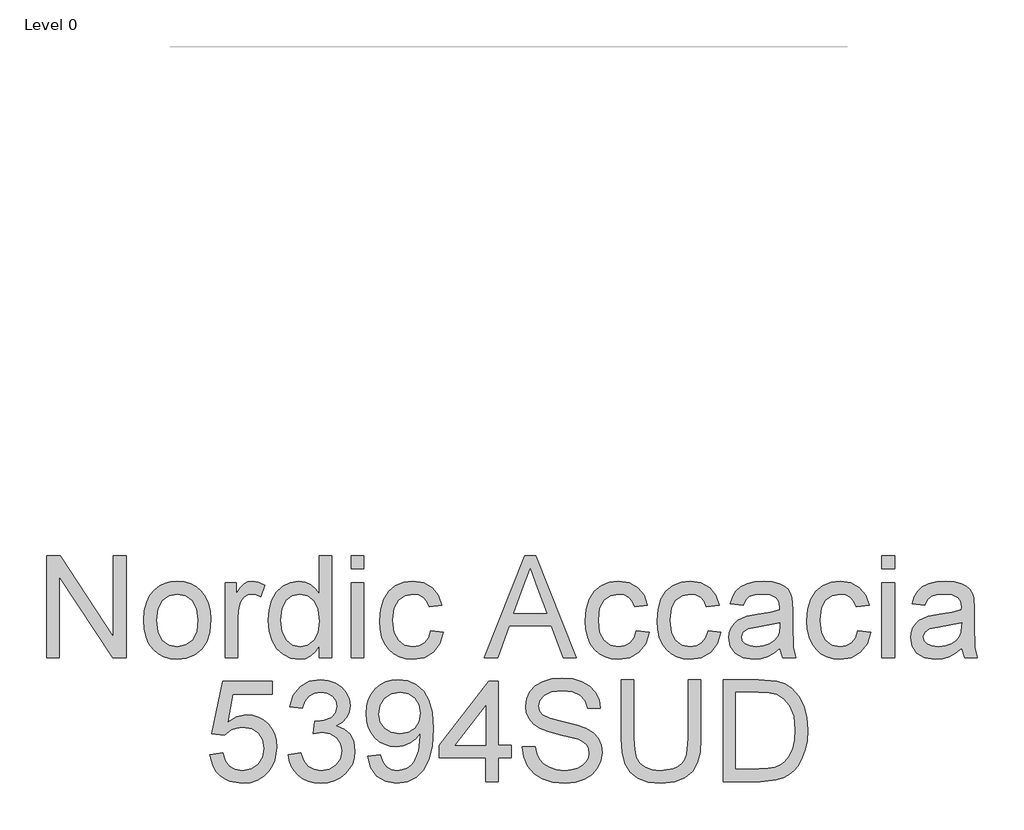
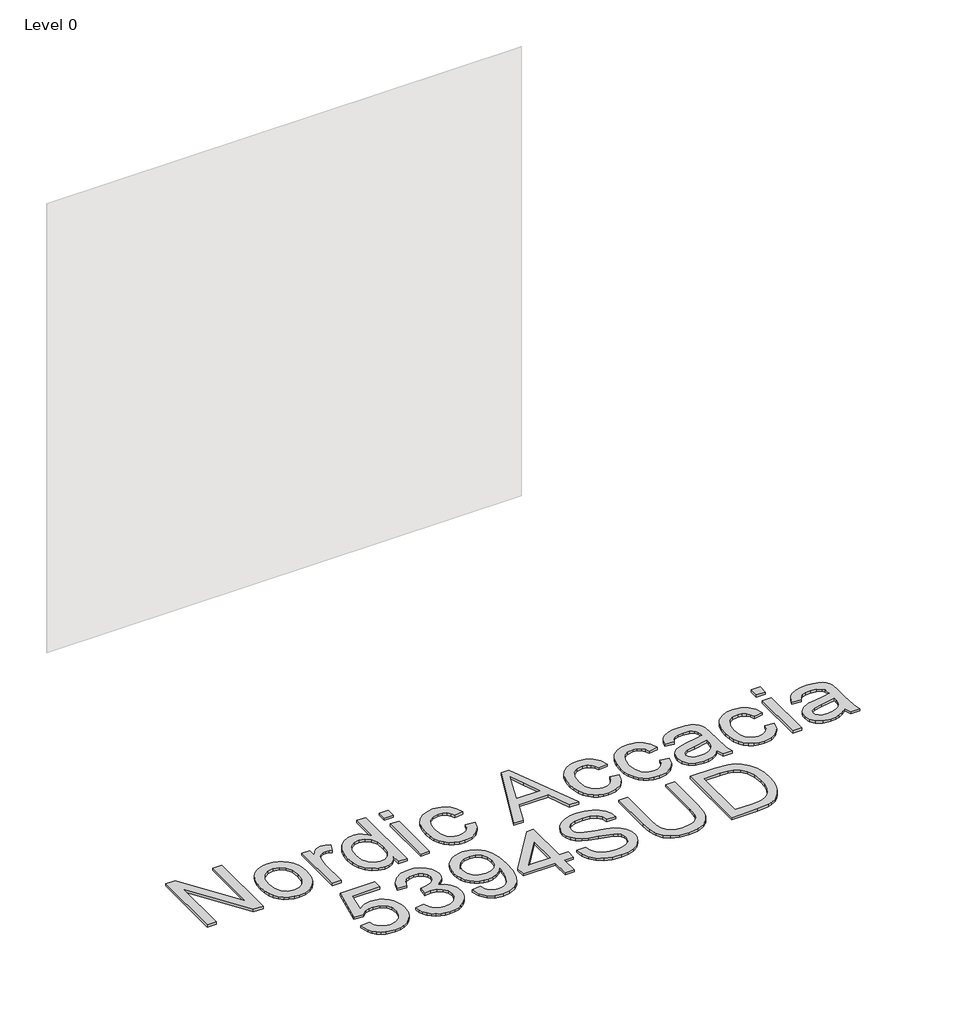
# One storey, part 23 of 43: 1 proxy.
"""IFC4 building model written with IfcOpenShell, lengths in millimetres."""

from ifc_helpers import new_model, si_unit, origin, origin_with_axes, place, context, project, spatial, polyline, outline, extrude, element, save

model = new_model("IFC4")

# Units and contexts
model_context = context("Model", 3, world=origin())
ifc_project = project(units=[si_unit("LENGTHUNIT", "METRE", prefix="MILLI")], contexts=[model_context])

# Site, building, storey
site = spatial("IfcSite", under=ifc_project)
building = spatial("IfcBuilding", under=site)
storey = spatial("IfcBuildingStorey", under=building, Name="Level 0", Elevation=0.0)

# Proxy
placement = place(None, origin())
element("IfcBuildingElementProxy", 1, Name="300mm Arial", ObjectType="300mm Arial", at=placement, inside=storey, context=model_context, shape_type="SweptSolid", body=[
    extrude(outline(polyline([(-816.2360224, -16999.860494), (-816.2360224, -16698.4915635), (-775.9161557, -16698.4915635), (-618.4626618, -16937.2469784), (-618.4626618, -16698.4915635), (-580.7915455, -16698.4915635), (-580.7915455, -16999.860494), (-621.1114122, -16999.860494), (-778.5649061, -16761.0315027), (-778.5649061, -16999.860494), (-816.2360224, -16999.860494)])), origin_with_axes(), (0.0, 0.0, 1.0), 10.0),
    extrude(outline(polyline([(-528.9937606, -16889.2015898), (-526.956614, -16860.5389839), (-520.8451744, -16835.8403064), (-510.6594416, -16815.1055575), (-496.3994158, -16798.334737), (-482.0428209, -16787.6155754), (-466.196304, -16779.9590314), (-448.859865, -16775.3651049), (-430.0335039, -16773.8337961), (-409.2504704, -16775.698498), (-390.4585982, -16781.2926036), (-373.6578874, -16790.6161129), (-358.8483378, -16803.669026), (-346.761115, -16820.0098843), (-338.1273844, -16839.1972296), (-332.9471461, -16861.2310619), (-331.2204, -16886.1113811), (-334.2738205, -16924.1687735), (-343.4340822, -16953.1394806), (-358.4344706, -16974.8353213), (-379.0082711, -16991.0681143), (-403.4448327, -17001.1940662), (-430.0335039, -17004.5693835), (-451.12004, -17002.7115794), (-470.0866561, -16997.1381672), (-486.9333522, -16987.8491468), (-501.6601283, -16974.8445183), (-513.6185924, -16958.3450108), (-522.1603525, -16938.5713536), (-527.2854086, -16915.5235466), (-528.9937606, -16889.2015898)]), holes=[polyline([(-491.3226443, -16889.1280134), (-486.9632426, -16923.2214773), (-473.8850377, -16947.5108861), (-454.203351, -16962.0514219), (-430.0335039, -16966.8982672), (-405.9740214, -16962.0238308), (-386.3291228, -16947.4005215), (-373.2509179, -16922.789216), (-368.8915163, -16887.950791), (-373.2785091, -16854.8506085), (-386.4394874, -16830.8922936), (-406.1119771, -16816.3517577), (-430.0335039, -16811.5049125), (-454.203351, -16816.3333636), (-473.8850377, -16830.8187172), (-486.9632426, -16855.0529436), (-491.3226443, -16889.1280134)])]), origin_with_axes(), (0.0, 0.0, 1.0), 10.0),
    extrude(outline(polyline([(-288.8403941, -16999.860494), (-288.8403941, -16778.5426857), (-255.8781674, -16778.5426857), (-255.8781674, -16811.2841833), (-243.7012733, -16792.3014723), (-232.4808725, -16781.1178596), (-221.2236834, -16775.654812), (-208.9364248, -16773.8337961), (-190.174443, -16776.7400639), (-171.1181557, -16785.4588672), (-183.6997199, -16819.2304343), (-196.9434717, -16813.4362929), (-210.1872235, -16811.5049125), (-221.4352156, -16813.3627165), (-231.4875911, -16818.9361288), (-239.6085861, -16827.8020848), (-245.0624367, -16839.5375205), (-249.6425675, -16860.5803706), (-251.1692778, -16883.5362071), (-251.1692778, -16999.860494), (-288.8403941, -16999.860494)])), origin_with_axes(), (0.0, 0.0, 1.0), 10.0),
    extrude(outline(polyline([(-11.0159114, -16999.860494), (-11.0159114, -16964.3230932), (-22.286896, -16981.9308452), (-35.9399165, -16994.507811), (-51.974973, -17002.0539904), (-70.3920654, -17004.5693835), (-94.7458535, -17000.9273518), (-117.0395024, -16990.0012565), (-135.9118487, -16972.5544529), (-150.0017291, -16949.350296), (-158.7757147, -16921.3268851), (-161.7003766, -16889.422319), (-159.005641, -16857.9132261), (-150.9214341, -16829.4575538), (-137.4569531, -16805.6739828), (-118.6213949, -16788.181194), (-95.8403024, -16777.4206456), (-70.5392182, -16773.8337961), (-52.1083302, -16776.3997731), (-35.8111578, -16784.0977038), (-21.9971889, -16795.8975188), (-11.0159114, -16810.7691485), (-11.0159114, -16698.4915635), (26.6552049, -16698.4915635), (26.6552049, -16999.860494), (-11.0159114, -16999.860494)]), holes=[polyline([(-124.0292603, -16889.2751662), (-119.7802232, -16923.350236), (-107.0331121, -16947.5844625), (-88.5102536, -16962.069816), (-66.9339746, -16966.8982672), (-45.3668927, -16962.2905452), (-27.3130837, -16948.4673793), (-15.0902045, -16925.1712519), (-11.0159114, -16892.1446458), (-15.1637809, -16856.037028), (-27.6073893, -16831.0026582), (-46.1210508, -16816.3793489), (-68.479079, -16811.5049125), (-90.2760872, -16816.1862108), (-108.1367581, -16830.230106), (-120.0561347, -16854.3539678), (-124.0292603, -16889.2751662)])]), origin_with_axes(), (0.0, 0.0, 1.0), 10.0),
    extrude(outline(polyline([(83.1618794, -16736.1626798), (83.1618794, -16698.4915635), (120.8329957, -16698.4915635), (120.8329957, -16736.1626798), (83.1618794, -16736.1626798)])), origin_with_axes(), (0.0, 0.0, 1.0), 10.0),
    extrude(outline(polyline([(83.1618794, -16999.860494), (83.1618794, -16778.5426857), (120.8329957, -16778.5426857), (120.8329957, -16999.860494), (83.1618794, -16999.860494)])), origin_with_axes(), (0.0, 0.0, 1.0), 10.0),
    extrude(outline(polyline([(318.6063563, -16919.8093718), (356.2774726, -16924.5182614), (345.7744417, -16958.0231141), (326.0375726, -16983.3425924), (298.9246696, -16999.2626857), (266.2935366, -17004.5693835), (245.1656138, -17002.7184772), (226.2219903, -16997.1657584), (209.4626661, -16987.9112269), (194.8876413, -16974.9548829), (183.0901256, -16958.5404481), (174.6633287, -16938.9116444), (169.6072505, -16916.0684718), (167.9218911, -16890.0109302), (170.8005677, -16856.4876834), (179.4365975, -16827.4342028), (193.9679364, -16803.9725286), (214.5325399, -16787.2247008), (239.1346483, -16777.1815223), (265.7785018, -16773.8337961), (297.6094914, -16778.4323211), (323.0577285, -16792.2278959), (341.3138725, -16814.4847566), (351.5685831, -16844.4671392), (313.8974668, -16849.1760288), (307.0640587, -16832.7409006), (296.423072, -16820.9594797), (282.5631178, -16813.8685543), (266.0728074, -16811.5049125), (241.7282164, -16816.1586197), (222.4052146, -16830.1197414), (209.7960592, -16854.1424357), (205.5930074, -16888.9808606), (209.7040887, -16924.2883351), (222.0373326, -16948.3938029), (241.0108465, -16962.2721511), (265.0427378, -16966.8982672), (284.5496806, -16964.0103936), (300.5433504, -16955.3467726), (312.1776185, -16940.6866751), (318.6063563, -16919.8093718)])), origin_with_axes(), (0.0, 0.0, 1.0), 10.0),
    extrude(outline(polyline([(476.574885, -16999.860494), (596.8722975, -16698.4915635), (628.9516074, -16698.4915635), (749.2490199, -16999.860494), (709.444188, -16999.860494), (674.9368568, -16905.6827032), (550.8134717, -16905.6827032), (516.3797169, -16999.860494), (476.574885, -16999.860494)]), holes=[polyline([(564.6458347, -16868.0115869), (661.1780702, -16868.0115869), (634.028379, -16793.9201531), (612.9119525, -16736.1626798), (594.1499707, -16787.44543), (564.6458347, -16868.0115869)])]), origin_with_axes(), (0.0, 0.0, 1.0), 10.0),
    extrude(outline(polyline([(926.0531068, -16919.8093718), (963.7242231, -16924.5182614), (953.2211921, -16958.0231141), (933.4843231, -16983.3425924), (906.37142, -16999.2626857), (873.740287, -17004.5693835), (852.6123642, -17002.7184772), (833.6687407, -16997.1657584), (816.9094166, -16987.9112269), (802.3343918, -16974.9548829), (790.536876, -16958.5404481), (782.1100791, -16938.9116444), (777.0540009, -16916.0684718), (775.3686415, -16890.0109302), (778.2473181, -16856.4876834), (786.883348, -16827.4342028), (801.4146868, -16803.9725286), (821.9792903, -16787.2247008), (846.5813987, -16777.1815223), (873.2252522, -16773.8337961), (905.0562419, -16778.4323211), (930.5044789, -16792.2278959), (948.7606229, -16814.4847566), (959.0153335, -16844.4671392), (921.3442172, -16849.1760288), (914.5108092, -16832.7409006), (903.8698224, -16820.9594797), (890.0098683, -16813.8685543), (873.5195578, -16811.5049125), (849.1749668, -16816.1586197), (829.851965, -16830.1197414), (817.2428096, -16854.1424357), (813.0397578, -16888.9808606), (817.1508391, -16924.2883351), (829.484083, -16948.3938029), (848.4575969, -16962.2721511), (872.4894883, -16966.8982672), (891.9964311, -16964.0103936), (907.9901008, -16955.3467726), (919.6243689, -16940.6866751), (926.0531068, -16919.8093718)])), origin_with_axes(), (0.0, 0.0, 1.0), 10.0),
    extrude(outline(polyline([(1137.953136, -16919.8093718), (1175.6242523, -16924.5182614), (1165.1212213, -16958.0231141), (1145.3843523, -16983.3425924), (1118.2714492, -16999.2626857), (1085.6403163, -17004.5693835), (1064.5123934, -17002.7184772), (1045.5687699, -16997.1657584), (1028.8094458, -16987.9112269), (1014.234421, -16974.9548829), (1002.4369053, -16958.5404481), (994.0101083, -16938.9116444), (988.9540301, -16916.0684718), (987.2686708, -16890.0109302), (990.1473474, -16856.4876834), (998.7833772, -16827.4342028), (1013.314716, -16803.9725286), (1033.8793195, -16787.2247008), (1058.481428, -16777.1815223), (1085.1252815, -16773.8337961), (1116.9562711, -16778.4323211), (1142.4045081, -16792.2278959), (1160.6606521, -16814.4847566), (1170.9153627, -16844.4671392), (1133.2442464, -16849.1760288), (1126.4108384, -16832.7409006), (1115.7698517, -16820.9594797), (1101.9098975, -16813.8685543), (1085.4195871, -16811.5049125), (1061.074996, -16816.1586197), (1041.7519942, -16830.1197414), (1029.1428389, -16854.1424357), (1024.9397871, -16888.9808606), (1029.0508684, -16924.2883351), (1041.3841122, -16948.3938029), (1060.3576261, -16962.2721511), (1084.3895175, -16966.8982672), (1103.8964603, -16964.0103936), (1119.89013, -16955.3467726), (1131.5243981, -16940.6866751), (1137.953136, -16919.8093718)])), origin_with_axes(), (0.0, 0.0, 1.0), 10.0),
    extrude(outline(polyline([(1349.8531652, -16971.6071568), (1331.8545386, -16987.0398064), (1313.3224831, -16997.1381672), (1293.8339344, -17002.7115794), (1272.9658282, -17004.5693835), (1241.4843265, -17000.0996173), (1218.2617755, -16986.6903186), (1203.9419689, -16966.3280501), (1199.1687, -16940.9993748), (1200.9713217, -16925.3827841), (1206.3791871, -16911.2009331), (1214.7209113, -16899.0608273), (1225.3251098, -16889.5694718), (1251.7022489, -16877.2086368), (1284.2965937, -16871.5432541), (1322.8138386, -16865.5835657), (1349.632436, -16858.5938078), (1349.8531652, -16850.2060983), (1347.2595971, -16833.3938912), (1339.4788929, -16822.3942195), (1322.0780746, -16814.2272392), (1297.8346511, -16811.5049125), (1275.3938494, -16813.3167313), (1259.7220764, -16818.7521878), (1249.0351044, -16828.8045633), (1241.5487058, -16844.4671392), (1203.8775895, -16839.7582497), (1210.416692, -16819.156858), (1220.1747619, -16802.9700502), (1234.0623072, -16790.590821), (1252.9898359, -16781.4121652), (1276.1388104, -16775.7283884), (1302.6906934, -16773.8337961), (1328.1573245, -16775.5076592), (1348.344849, -16780.5292485), (1363.5659666, -16788.0800264), (1374.1333769, -16797.3414556), (1381.1415289, -16808.7917827), (1385.6848715, -16822.9092543), (1387.5242815, -16855.8714811), (1387.5242815, -16902.7396473), (1389.4372679, -16968.1858542), (1396.9420606, -16999.860494), (1359.2709443, -16999.860494), (1349.8531652, -16971.6071568)]), holes=[polyline([(1349.8531652, -16896.2649241), (1289.0790596, -16907.8164188), (1256.6686558, -16913.9232599), (1241.9901642, -16923.8560738), (1236.8398163, -16938.3506244), (1239.6449165, -16949.5526311), (1248.0602171, -16958.7312869), (1261.9017772, -16964.8565221), (1280.9856557, -16966.8982672), (1301.2191654, -16964.64499), (1319.0982304, -16957.8851583), (1333.592781, -16947.9247533), (1343.6727477, -16936.069756), (1348.1425139, -16923.8560738), (1349.632436, -16906.933502), (1349.8531652, -16896.2649241)])]), origin_with_axes(), (0.0, 0.0, 1.0), 10.0),
    extrude(outline(polyline([(1580.5887526, -16919.8093718), (1618.2598689, -16924.5182614), (1607.7568379, -16958.0231141), (1588.0199689, -16983.3425924), (1560.9070658, -16999.2626857), (1528.2759329, -17004.5693835), (1507.14801, -17002.7184772), (1488.2043865, -16997.1657584), (1471.4450624, -16987.9112269), (1456.8700376, -16974.9548829), (1445.0725219, -16958.5404481), (1436.6457249, -16938.9116444), (1431.5896467, -16916.0684718), (1429.9042873, -16890.0109302), (1432.782964, -16856.4876834), (1441.4189938, -16827.4342028), (1455.9503326, -16803.9725286), (1476.5149361, -16787.2247008), (1501.1170446, -16777.1815223), (1527.7608981, -16773.8337961), (1559.5918877, -16778.4323211), (1585.0401247, -16792.2278959), (1603.2962687, -16814.4847566), (1613.5509793, -16844.4671392), (1575.879863, -16849.1760288), (1569.046455, -16832.7409006), (1558.4054683, -16820.9594797), (1544.5455141, -16813.8685543), (1528.0552037, -16811.5049125), (1503.7106126, -16816.1586197), (1484.3876108, -16830.1197414), (1471.7784554, -16854.1424357), (1467.5754037, -16888.9808606), (1471.6864849, -16924.2883351), (1484.0197288, -16948.3938029), (1502.9932427, -16962.2721511), (1527.0251341, -16966.8982672), (1546.5320769, -16964.0103936), (1562.5257466, -16955.3467726), (1574.1600147, -16940.6866751), (1580.5887526, -16919.8093718)])), origin_with_axes(), (0.0, 0.0, 1.0), 10.0),
    extrude(outline(polyline([(1651.2220956, -16999.860494), (1651.2220956, -16778.5426857), (1688.893212, -16778.5426857), (1688.893212, -16999.860494), (1651.2220956, -16999.860494)])), origin_with_axes(), (0.0, 0.0, 1.0), 10.0),
    extrude(outline(polyline([(1651.2220956, -16736.1626798), (1651.2220956, -16698.4915635), (1688.893212, -16698.4915635), (1688.893212, -16736.1626798), (1651.2220956, -16736.1626798)])), origin_with_axes(), (0.0, 0.0, 1.0), 10.0),
    extrude(outline(polyline([(1886.6665726, -16971.6071568), (1868.6679459, -16987.0398064), (1850.1358904, -16997.1381672), (1830.6473417, -17002.7115794), (1809.7792356, -17004.5693835), (1778.2977338, -17000.0996173), (1755.0751829, -16986.6903186), (1740.7553762, -16966.3280501), (1735.9821073, -16940.9993748), (1737.7847291, -16925.3827841), (1743.1925944, -16911.2009331), (1751.5343187, -16899.0608273), (1762.1385172, -16889.5694718), (1788.5156562, -16877.2086368), (1821.110001, -16871.5432541), (1859.6272459, -16865.5835657), (1886.4458434, -16858.5938078), (1886.6665726, -16850.2060983), (1884.0730045, -16833.3938912), (1876.2923003, -16822.3942195), (1858.8914819, -16814.2272392), (1834.6480584, -16811.5049125), (1812.2072567, -16813.3167313), (1796.5354837, -16818.7521878), (1785.8485118, -16828.8045633), (1778.3621132, -16844.4671392), (1740.6909969, -16839.7582497), (1747.2300993, -16819.156858), (1756.9881693, -16802.9700502), (1770.8757146, -16790.590821), (1789.8032432, -16781.4121652), (1812.9522178, -16775.7283884), (1839.5041008, -16773.8337961), (1864.9707319, -16775.5076592), (1885.1582564, -16780.5292485), (1900.3793739, -16788.0800264), (1910.9467842, -16797.3414556), (1917.9549362, -16808.7917827), (1922.4982789, -16822.9092543), (1924.3376889, -16855.8714811), (1924.3376889, -16902.7396473), (1926.2506752, -16968.1858542), (1933.7554679, -16999.860494), (1896.0843516, -16999.860494), (1886.6665726, -16971.6071568)]), holes=[polyline([(1886.6665726, -16896.2649241), (1825.892467, -16907.8164188), (1793.4820632, -16913.9232599), (1778.8035716, -16923.8560738), (1773.6532236, -16938.3506244), (1776.4583239, -16949.5526311), (1784.8736245, -16958.7312869), (1798.7151846, -16964.8565221), (1817.7990631, -16966.8982672), (1838.0325728, -16964.64499), (1855.9116378, -16957.8851583), (1870.4061884, -16947.9247533), (1880.486155, -16936.069756), (1884.9559213, -16923.8560738), (1886.4458434, -16906.933502), (1886.6665726, -16896.2649241)])]), origin_with_axes(), (0.0, 0.0, 1.0), 10.0),
    extrude(outline(polyline([(-333.5748447, -17285.7338254), (-295.9037284, -17281.0249358), (-288.9875469, -17303.6404815), (-276.9210175, -17319.8364863), (-259.7593224, -17329.5761621), (-237.557644, -17332.8227207), (-210.5551055, -17328.3069693), (-190.3215958, -17314.7597148), (-177.6848493, -17293.7444558), (-173.4726004, -17266.8246908), (-177.4181348, -17241.4776213), (-189.254738, -17222.0902402), (-209.0743805, -17209.7845875), (-236.9690328, -17205.6827032), (-255.2435709, -17207.3197781), (-270.0416242, -17212.2310027), (-291.1948389, -17229.2271509), (-328.8659552, -17224.5182614), (-295.9037284, -17069.1249066), (-149.9281527, -17069.1249066), (-149.9281527, -17106.7960229), (-265.4430992, -17106.7960229), (-281.5563306, -17189.790201), (-254.6457627, -17173.4562404), (-226.4476077, -17168.0115869), (-208.1017925, -17169.6992456), (-191.2504978, -17174.7622215), (-175.8937238, -17183.2005148), (-162.0314704, -17195.0141254), (-150.5558514, -17209.4810848), (-142.3589807, -17225.8794248), (-137.4408583, -17244.2091452), (-135.8014841, -17264.470246), (-141.7059901, -17302.1413624), (-149.0866227, -17318.9351754), (-159.4195082, -17334.3678251), (-175.0728871, -17350.1729553), (-193.3382282, -17361.4623341), (-214.2155314, -17368.2359613), (-237.7047968, -17370.4938371), (-274.7045285, -17364.6904986), (-290.3831992, -17357.4363255), (-304.1810733, -17347.2804832), (-315.6612908, -17334.7288093), (-324.3869919, -17320.2871418), (-333.5748447, -17285.7338254)])), origin_with_axes(), (0.0, 0.0, 1.0), 10.0),
    extrude(outline(polyline([(-102.8392574, -17285.7338254), (-65.1681411, -17281.0249358), (-56.7344463, -17304.6981422), (-44.3828083, -17320.6826149), (-27.5062218, -17329.7876943), (-5.4976814, -17332.8227207), (20.3276346, -17328.6472601), (40.2668388, -17316.1208782), (53.0139499, -17297.4324728), (57.2629869, -17274.7709419), (53.0507381, -17253.2590422), (40.4139916, -17235.8122386), (21.2841278, -17224.2515469), (-2.4074727, -17220.397983), (-28.8213999, -17224.5182614), (-24.6275452, -17186.8471451), (-18.5942805, -17187.2886035), (3.9752799, -17184.5846708), (24.1536074, -17176.4728728), (38.3906406, -17162.7508744), (43.1363183, -17143.2163404), (39.6966217, -17126.9467592), (29.3775317, -17113.7489926), (13.6321823, -17105.0025982), (-6.0862926, -17102.0871334), (-25.8415558, -17105.0301893), (-41.9915754, -17113.8593572), (-53.7821933, -17128.574637), (-60.4592515, -17149.1760288), (-98.1303678, -17144.4671392), (-87.0387257, -17110.6403898), (-67.3018566, -17085.3852908), (-40.2993182, -17069.6583355), (-7.4106678, -17064.4160171), (16.2717356, -17067.0003881), (38.0227586, -17074.7535011), (56.3616761, -17086.9855775), (69.807763, -17103.0068384), (78.0575167, -17121.4653175), (80.8074346, -17141.0090485), (78.1954725, -17159.2192072), (70.359586, -17175.7371088), (57.4101397, -17189.8085951), (39.4574984, -17200.6795081), (63.0387343, -17210.2076518), (80.513129, -17226.4312477), (91.3288597, -17248.4673793), (94.9341033, -17275.4331295), (93.1314815, -17294.5445992), (87.7236161, -17312.1477526), (78.7105073, -17328.2425899), (66.0921548, -17342.829111), (50.719286, -17354.9324287), (33.4426278, -17363.5776555), (14.2621802, -17368.7647917), (-6.8220566, -17370.4938371), (-25.878344, -17369.0177105), (-43.2423741, -17364.589331), (-58.9141471, -17357.2086985), (-72.8936629, -17346.875813), (-84.615303, -17334.1976797), (-93.5134488, -17319.781304), (-99.5881002, -17303.6266859), (-102.8392574, -17285.7338254)])), origin_with_axes(), (0.0, 0.0, 1.0), 10.0),
    extrude(outline(polyline([(132.6052196, -17290.4427149), (170.2763359, -17285.7338254), (176.7142708, -17307.1169663), (187.1989076, -17321.6758963), (201.4727291, -17330.0360146), (219.2782176, -17332.8227207), (235.2534933, -17331.029296), (249.775635, -17325.6490218), (261.8421645, -17317.2705094), (270.4506031, -17306.4823699), (282.77465, -17273.7408723), (288.2193035, -17230.0364913), (287.9985743, -17222.6788514), (274.9479605, -17238.6081418), (257.8690389, -17251.2264942), (237.9942141, -17259.4486568), (216.5558909, -17262.1893777), (198.6607311, -17260.5155146), (182.2049096, -17255.4939254), (167.1884264, -17247.12461), (153.6112815, -17235.4075684), (142.3609902, -17220.9544045), (134.3250679, -17204.3767221), (129.5035145, -17185.6745212), (127.89633, -17164.8478018), (129.5816894, -17143.326705), (134.6377676, -17124.0129003), (143.0645645, -17106.9063875), (154.8620803, -17092.0071667), (169.1979818, -17079.9360387), (185.239936, -17071.3138045), (202.987943, -17066.1404639), (222.4420028, -17064.4160171), (250.5389902, -17068.3523544), (276.1159859, -17080.1613665), (297.5083239, -17099.254442), (313.0513382, -17125.0429699), (322.5151025, -17160.6907352), (325.6696906, -17209.3615232), (322.5242996, -17260.96617), (313.0881264, -17300.8537754), (297.4439445, -17330.8269609), (275.6745275, -17352.6883485), (248.7179743, -17366.0424649), (217.512384, -17370.4938371), (185.3043154, -17365.2423216), (159.607758, -17349.4877751), (141.6367225, -17324.2234791), (132.6052196, -17290.4427149)]), holes=[polyline([(287.9985743, -17163.964885), (283.9334783, -17138.4338745), (271.7381901, -17118.788976), (252.8106615, -17106.262594), (228.5488439, -17102.0871334), (203.3857154, -17106.5844908), (183.2257821, -17120.0765629), (169.9820303, -17140.7239399), (165.5674463, -17166.6872117), (169.742907, -17189.964945), (182.2692889, -17208.4418182), (201.9325815, -17220.4991506), (227.5187743, -17224.5182614), (251.5874538, -17220.4991506), (270.9656379, -17208.4418182), (283.7403402, -17189.2843633), (287.9985743, -17163.964885)])]), origin_with_axes(), (0.0, 0.0, 1.0), 10.0),
    extrude(outline(polyline([(481.0630454, -17365.7849475), (481.0630454, -17295.1516044), (344.5052488, -17295.1516044), (344.5052488, -17257.4804881), (490.4808245, -17069.1249066), (518.7341617, -17069.1249066), (518.7341617, -17257.4804881), (556.405278, -17257.4804881), (556.405278, -17295.1516044), (518.7341617, -17295.1516044), (518.7341617, -17365.7849475), (481.0630454, -17365.7849475)]), holes=[polyline([(481.0630454, -17257.4804881), (481.0630454, -17141.0826249), (390.8583802, -17257.4804881), (481.0630454, -17257.4804881)])]), origin_with_axes(), (0.0, 0.0, 1.0), 10.0),
    extrude(outline(polyline([(589.3675048, -17262.1893777), (627.0386211, -17262.1893777), (631.3612345, -17283.0942721), (639.1787269, -17299.8972822), (651.3740151, -17313.2330045), (668.8300157, -17323.7360355), (690.1671714, -17330.5510494), (714.0059247, -17332.8227207), (734.9935926, -17331.1028724), (753.3692982, -17325.9433274), (768.259322, -17317.7763471), (778.7899441, -17307.0341929), (785.0531351, -17294.700949), (787.1408654, -17281.7606998), (785.5773669, -17269.1515444), (780.8868715, -17258.2530403), (771.3587278, -17248.9548229), (755.2822846, -17241.1465276), (700.4310791, -17226.7623415), (664.4246288, -17217.2433949), (641.3860189, -17208.1843008), (622.6332342, -17195.510766), (609.3434971, -17180.1516928), (601.4248372, -17162.4381747), (598.7852838, -17142.7013056), (602.0502366, -17120.637583), (611.8450947, -17100.0637824), (627.9123408, -17082.6261758), (649.9944576, -17069.9710352), (676.5003553, -17062.2731044), (705.8389444, -17059.7071275), (737.6239488, -17062.3926661), (765.4358277, -17070.4492818), (788.2812996, -17083.7114277), (805.1670831, -17102.013557), (815.8540551, -17124.2152354), (820.1030921, -17149.1760288), (782.4319758, -17149.1760288), (775.5157943, -17126.6984389), (761.0948201, -17110.4748429), (738.5620479, -17100.6523936), (707.3104724, -17097.3782438), (675.3231329, -17100.6156054), (653.3789719, -17110.3276901), (640.6870431, -17124.6199056), (636.4564002, -17141.5976597), (639.4546384, -17156.0738162), (648.4493532, -17167.7172813), (669.7129325, -17178.1283418), (709.9592228, -17188.7601314), (751.4931, -17198.8584922), (776.6194403, -17207.669266), (798.0945518, -17221.3360821), (813.076546, -17238.2034716), (821.8781228, -17258.0874934), (824.8119817, -17280.8042066), (821.4366644, -17304.0267576), (811.3107125, -17325.869751), (794.8479932, -17344.668521), (772.4623738, -17358.7584014), (745.5426088, -17367.5599781), (715.4774527, -17370.4938371), (678.5696915, -17367.3300519), (648.1918358, -17357.8386964), (623.9943976, -17341.9829824), (605.627889, -17319.7261217), (593.837271, -17292.6132187), (589.3675048, -17262.1893777)])), origin_with_axes(), (0.0, 0.0, 1.0), 10.0),
    extrude(outline(polyline([(1079.0920167, -17064.4160171), (1116.7631331, -17064.4160171), (1116.7631331, -17238.277048), (1114.2063532, -17278.9923878), (1106.5360136, -17310.3451308), (1092.2070099, -17334.533372), (1069.6742377, -17353.7552063), (1038.8825147, -17366.3091794), (999.7766586, -17370.4938371), (961.5261281, -17366.8518053), (930.9459373, -17355.92571), (908.026889, -17338.0926303), (892.7597862, -17313.7296452), (884.1789387, -17281.052527), (881.3186561, -17238.277048), (881.3186561, -17064.4160171), (918.9897724, -17064.4160171), (918.9897724, -17236.9526728), (920.8475765, -17270.8070134), (926.4209887, -17294.3790523), (936.5193495, -17310.7038158), (951.9519992, -17322.8163305), (972.0751444, -17330.3211232), (996.2449914, -17332.8227207), (1034.5599012, -17327.8747079), (1048.9027005, -17321.6896919), (1060.0357294, -17313.0306694), (1068.3728551, -17300.8537754), (1074.3279449, -17284.1151446), (1079.0920167, -17236.9526728), (1079.0920167, -17064.4160171)])), origin_with_axes(), (0.0, 0.0, 1.0), 10.0),
    extrude(outline(polyline([(1182.6875866, -17365.7849475), (1182.6875866, -17064.4160171), (1286.6510384, -17064.4160171), (1340.4353861, -17068.7570246), (1364.4580804, -17077.12634), (1384.7283783, -17090.3149095), (1405.5688934, -17113.270746), (1420.4129319, -17141.8183889), (1429.2972821, -17175.406015), (1432.2587321, -17213.4818015), (1430.2537752, -17245.8278259), (1424.2389046, -17274.2926953), (1415.0786429, -17298.5269217), (1403.6375129, -17318.1810173), (1390.4673375, -17333.6964405), (1376.1199397, -17345.5146496), (1359.6480233, -17354.2794381), (1340.1042923, -17360.6345996), (1291.6542336, -17365.7849475), (1182.6875866, -17365.7849475)]), holes=[polyline([(1220.3587029, -17328.1138312), (1287.0189204, -17328.1138312), (1314.591676, -17326.7526678), (1335.5057674, -17322.6691777), (1351.287905, -17316.1024841), (1363.464799, -17307.2917103), (1376.552201, -17290.9853408), (1386.3838473, -17269.8781114), (1392.5366737, -17243.8780514), (1394.5876158, -17212.8931903), (1390.568505, -17171.8375597), (1378.5111726, -17141.5240833), (1360.696487, -17120.7019623), (1339.4053165, -17108.1203981), (1317.737067, -17103.5954496), (1285.9888508, -17102.0871334), (1220.3587029, -17102.0871334), (1220.3587029, -17328.1138312)])]), origin_with_axes(), (0.0, 0.0, 1.0), 10.0),
])

save(model, "model.ifc")
